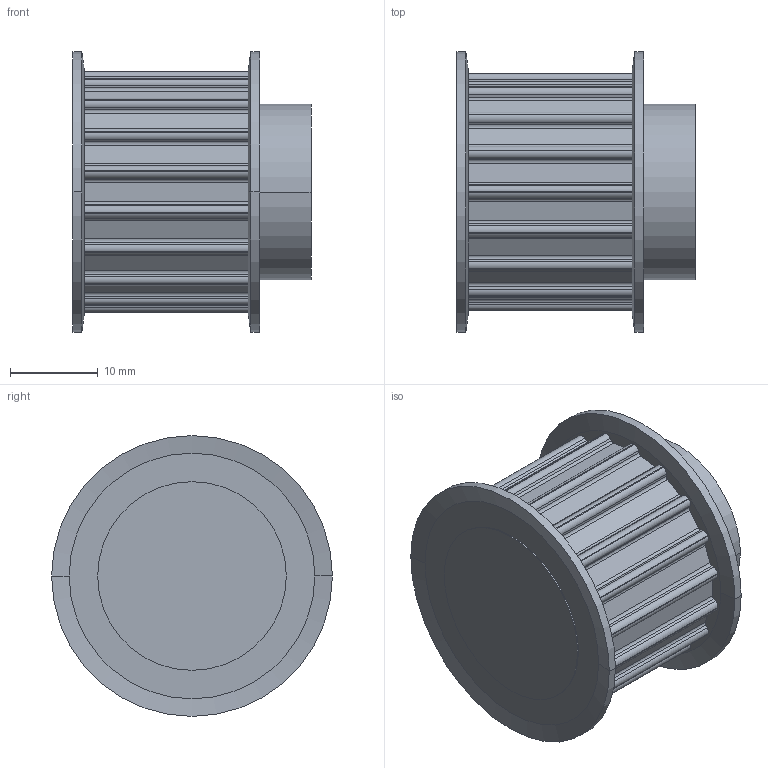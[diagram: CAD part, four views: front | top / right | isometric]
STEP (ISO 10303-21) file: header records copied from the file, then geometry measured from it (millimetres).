
FILE_DESCRIPTION( ( '' ), '1' );
FILE_NAME( 'C:/Users/Stangenbergd/Documents/CAD_Step/1/16631800.stp', '2021-10-19T09:36:08', ( '' ), ( '' ), ' ', ' ', ' ' );
FILE_SCHEMA( ( 'CONFIG_CONTROL_DESIGN' ) );
Length unit declared in the file: millimetre
Products named in the file (1): 1
Bounding box: 27.13 x 32 x 32 mm (x, y, z)
Volume: 13485.8 mm3; surface area: 4656.3 mm2
Topology: 1 solids, 1 shells, 169 faces, 478 edges, 316 vertices
Faces by surface type: cylinder 100, plane 61, cone 8
Entity records: 5600 total; most frequent: DIRECTION 1026, CARTESIAN_POINT 964, ORIENTED_EDGE 956, EDGE_CURVE 478, AXIS2_PLACEMENT_3D 378, VERTEX_POINT 316, LINE 270, VECTOR 270
